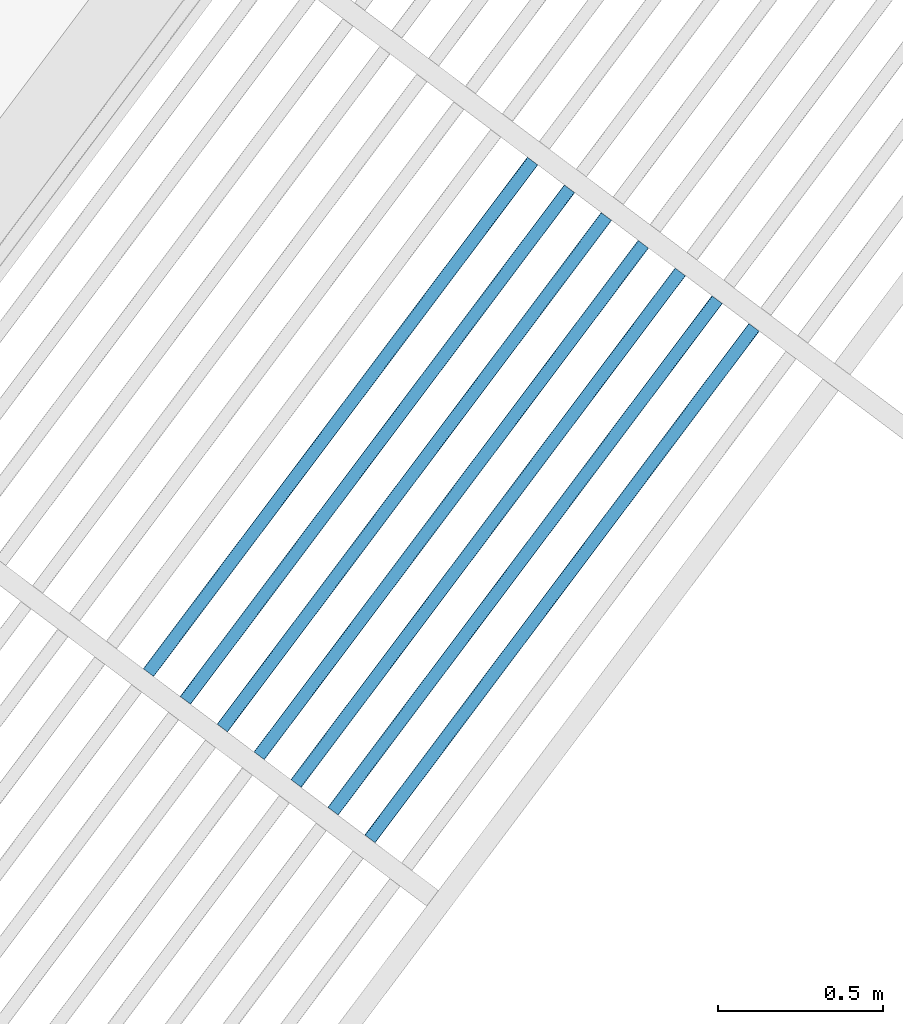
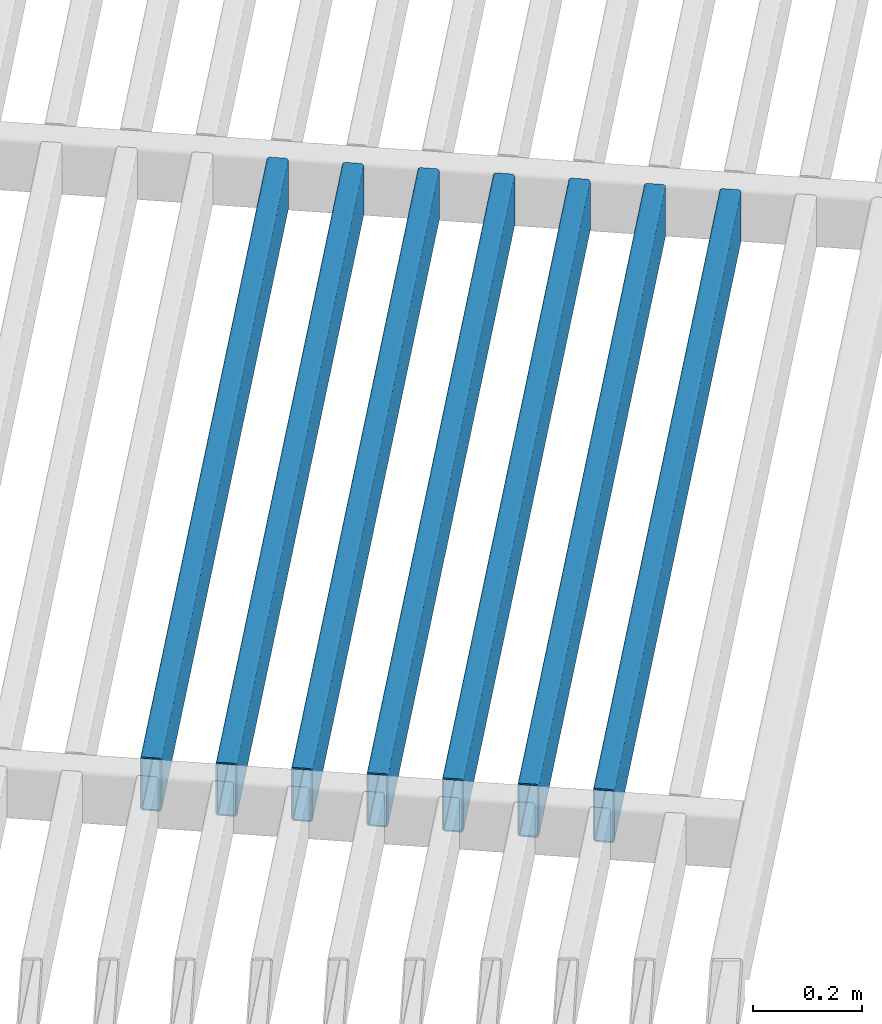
# One storey, part 85 of 95: 7 beams.
"""IFC2X3 building model written with IfcOpenShell, lengths in metres."""

from ifc_helpers import new_model, entity, si_unit, converted_unit, derived_unit, direction, frame, frame_2d, origin, place, context, subcontext, project, spatial, polyline, circle_curve, parameter, trimmed, segment, composite_curve, outline, extrude, material, type_object, element, save


model = new_model("IFC2X3")

# Units and contexts
model_context = context("Model", 3, precision=1e-05, world=origin(), true_north=direction((6.123031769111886e-17, 1.0)))
body_context = subcontext(model_context, "Body", "Model", "MODEL_VIEW")
ifc_project = project(units=[si_unit("LENGTHUNIT", "METRE"), si_unit("AREAUNIT", "SQUARE_METRE"), si_unit("VOLUMEUNIT", "CUBIC_METRE"), converted_unit("PLANEANGLEUNIT", "DEGREE", entity("IfcRatioMeasure", 0.017453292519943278), si_unit("PLANEANGLEUNIT", "RADIAN"), dimensions=[0, 0, 0, 0, 0, 0, 0]), si_unit("MASSUNIT", "GRAM", prefix="KILO"), derived_unit("MASSDENSITYUNIT", [(si_unit("MASSUNIT", "GRAM", prefix="KILO"), 1), (si_unit("LENGTHUNIT", "METRE"), -3)]), derived_unit("IONCONCENTRATIONUNIT", [(si_unit("MASSUNIT", "GRAM", prefix="KILO"), 1), (si_unit("LENGTHUNIT", "METRE"), -3)]), derived_unit("MOMENTOFINERTIAUNIT", [(si_unit("LENGTHUNIT", "METRE"), 4)]), si_unit("TIMEUNIT", "SECOND"), si_unit("FREQUENCYUNIT", "HERTZ"), si_unit("THERMODYNAMICTEMPERATUREUNIT", "DEGREE_CELSIUS"), derived_unit("THERMALTRANSMITTANCEUNIT", [(si_unit("MASSUNIT", "GRAM", prefix="KILO"), 1), (si_unit("THERMODYNAMICTEMPERATUREUNIT", "KELVIN"), -1), (si_unit("TIMEUNIT", "SECOND"), -3)]), derived_unit("THERMALCONDUCTANCEUNIT", [(si_unit("MASSUNIT", "GRAM", prefix="KILO"), 1), (si_unit("THERMODYNAMICTEMPERATUREUNIT", "KELVIN"), -1), (si_unit("TIMEUNIT", "SECOND"), -3), (si_unit("LENGTHUNIT", "METRE"), 1)]), derived_unit("VOLUMETRICFLOWRATEUNIT", [(si_unit("LENGTHUNIT", "METRE"), 3), (si_unit("TIMEUNIT", "SECOND"), -1)]), derived_unit("MASSFLOWRATEUNIT", [(si_unit("MASSUNIT", "GRAM", prefix="KILO"), 1), (si_unit("TIMEUNIT", "SECOND"), -1)]), derived_unit("ROTATIONALFREQUENCYUNIT", [(si_unit("TIMEUNIT", "SECOND"), -1)]), si_unit("ELECTRICCURRENTUNIT", "AMPERE"), si_unit("ELECTRICVOLTAGEUNIT", "VOLT"), si_unit("POWERUNIT", "WATT"), si_unit("FORCEUNIT", "NEWTON", prefix="KILO"), si_unit("ILLUMINANCEUNIT", "LUX"), si_unit("LUMINOUSFLUXUNIT", "LUMEN"), si_unit("LUMINOUSINTENSITYUNIT", "CANDELA"), derived_unit("USERDEFINED", [(si_unit("MASSUNIT", "GRAM", prefix="KILO"), -1), (si_unit("LENGTHUNIT", "METRE"), -2), (si_unit("TIMEUNIT", "SECOND"), 3), (si_unit("LUMINOUSFLUXUNIT", "LUMEN"), 1)]), derived_unit("USERDEFINED", [(si_unit("MASSUNIT", "GRAM", prefix="KILO"), 1), (si_unit("TIMEUNIT", "SECOND"), -3), (si_unit("LENGTHUNIT", "METRE"), 3), (si_unit("ELECTRICCURRENTUNIT", "AMPERE"), -2)]), derived_unit("SOUNDPOWERUNIT", [(si_unit("MASSUNIT", "GRAM", prefix="KILO"), 1), (si_unit("TIMEUNIT", "SECOND"), -3), (si_unit("LENGTHUNIT", "METRE"), 2)]), derived_unit("SOUNDPRESSUREUNIT", [(si_unit("MASSUNIT", "GRAM", prefix="KILO"), 1), (si_unit("LENGTHUNIT", "METRE"), -1), (si_unit("TIMEUNIT", "SECOND"), -2)]), derived_unit("LINEARVELOCITYUNIT", [(si_unit("LENGTHUNIT", "METRE"), 1), (si_unit("TIMEUNIT", "SECOND"), -1)]), si_unit("PRESSUREUNIT", "PASCAL"), derived_unit("USERDEFINED", [(si_unit("MASSUNIT", "GRAM", prefix="KILO"), 1), (si_unit("LENGTHUNIT", "METRE"), -2), (si_unit("TIMEUNIT", "SECOND"), -2)]), derived_unit("LINEARFORCEUNIT", [(si_unit("MASSUNIT", "GRAM", prefix="KILO"), 1), (si_unit("TIMEUNIT", "SECOND"), -2)]), derived_unit("PLANARFORCEUNIT", [(si_unit("MASSUNIT", "GRAM", prefix="KILO"), 1), (si_unit("LENGTHUNIT", "METRE"), -1), (si_unit("TIMEUNIT", "SECOND"), -2)]), derived_unit("SPECIFICHEATCAPACITYUNIT", [(si_unit("THERMODYNAMICTEMPERATUREUNIT", "KELVIN"), -1), (si_unit("LENGTHUNIT", "METRE"), 2), (si_unit("TIMEUNIT", "SECOND"), -2)]), derived_unit("HEATINGVALUEUNIT", [(si_unit("LENGTHUNIT", "METRE"), 2), (si_unit("TIMEUNIT", "SECOND"), -2)]), derived_unit("VAPORPERMEABILITYUNIT", [(si_unit("LENGTHUNIT", "METRE"), -1), (si_unit("TIMEUNIT", "SECOND"), 1)]), derived_unit("DYNAMICVISCOSITYUNIT", [(si_unit("MASSUNIT", "GRAM", prefix="KILO"), 1), (si_unit("TIMEUNIT", "SECOND"), -1), (si_unit("LENGTHUNIT", "METRE"), -1)]), derived_unit("THERMALEXPANSIONCOEFFICIENTUNIT", [(si_unit("THERMODYNAMICTEMPERATUREUNIT", "KELVIN"), -1)]), derived_unit("MODULUSOFELASTICITYUNIT", [(si_unit("MASSUNIT", "GRAM", prefix="KILO"), 1), (si_unit("LENGTHUNIT", "METRE"), -1), (si_unit("TIMEUNIT", "SECOND"), -2)]), derived_unit("ISOTHERMALMOISTURECAPACITYUNIT", [(si_unit("LENGTHUNIT", "METRE"), 3), (si_unit("MASSUNIT", "GRAM", prefix="KILO"), -1)]), derived_unit("MOISTUREDIFFUSIVITYUNIT", [(si_unit("TIMEUNIT", "SECOND"), -1), (si_unit("LENGTHUNIT", "METRE"), 2)])], contexts=[model_context])

# Site, building, storey
site_placement = place(None, origin())
site = spatial("IfcSite", under=ifc_project, at=site_placement, Name="Default", CompositionType="ELEMENT")
building_placement = place(site_placement, frame((0.0, 0.0, 235.0), z_axis=(0.0, 0.0, 1.0), x_axis=(-0.7996477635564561, 0.6004693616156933, 0.0)))
building = spatial("IfcBuilding", under=site, at=building_placement, CompositionType="ELEMENT")
storey_placement = place(building_placement, frame((0.0, 0.0, 3.400000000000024)))
storey = spatial("IfcBuildingStorey", under=building, at=storey_placement, Name="PC- Coberta STR", CompositionType="ELEMENT", Elevation=3.400000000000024)

# Beams
ifc_material = material(Name="_Acer- STR")
beam_type = type_object("IfcBeamType", Name="STR- V- Acer- RHS- Rectangular- T1:120x40RHS -", PredefinedType="NOTDEFINED")
beam_1_placement = place(storey_placement, frame((65.35355240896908, -32.38519175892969, 0.4984047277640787), z_axis=(0.0, 0.0, 1.0), x_axis=(0.0, -1.0, 0.0)))
element("IfcBeam", 1, at=beam_1_placement, inside=storey, type_object=beam_type, material=ifc_material, Name="STR- V- Acer- RHS- Rectangular- T1:120x40RHS -", ObjectType="STR- V- Acer- RHS- Rectangular- T1:120x40RHS -", context=body_context, shape_type="SweptSolid", body=[
    extrude(outline(composite_curve([segment(trimmed(circle_curve(frame_2d((-0.01400000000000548, -0.053999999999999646), x_axis=(1.0, 0.0)), 0.006), [parameter(180.0000000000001)], [parameter(269.99999999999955)], True, "PARAMETER"), True, "CONTINUOUS"), segment(polyline([(-0.01400000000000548, -0.0599999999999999), (0.013999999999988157, -0.0599999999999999)]), True, "CONTINUOUS"), segment(trimmed(circle_curve(frame_2d((0.013999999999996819, -0.053999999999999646), x_axis=(1.0, 0.0)), 0.006), [parameter(269.99999999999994)], [parameter(1.0177774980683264e-13)], True, "PARAMETER"), True, "CONTINUOUS"), segment(polyline([(0.019999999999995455, -0.053999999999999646), (0.019999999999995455, 0.05400000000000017)]), True, "CONTINUOUS"), segment(trimmed(circle_curve(frame_2d((0.013999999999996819, 0.05400000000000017), x_axis=(1.0, 0.0)), 0.006), [parameter(359.9999999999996)], [parameter(89.99999999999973)], True, "PARAMETER"), True, "CONTINUOUS"), segment(polyline([(0.013999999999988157, 0.059999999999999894), (-0.01400000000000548, 0.059999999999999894)]), True, "CONTINUOUS"), segment(trimmed(circle_curve(frame_2d((-0.01400000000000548, 0.05400000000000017), x_axis=(1.0, 0.0)), 0.006), [parameter(90.00000000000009)], [parameter(180.00000000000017)], True, "PARAMETER"), True, "CONTINUOUS"), segment(polyline([(-0.02000000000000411, 0.05400000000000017), (-0.02000000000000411, -0.05400000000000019)]), True, "CONTINUOUS")], self_intersect=False), holes=[composite_curve([segment(polyline([(0.013999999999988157, -0.05700000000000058), (-0.01400000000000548, -0.05700000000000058)]), True, "CONTINUOUS"), segment(trimmed(circle_curve(frame_2d((-0.01400000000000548, -0.05400000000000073), x_axis=(1.0, 0.0)), 0.003), [parameter(179.99999999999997)], [parameter(269.9999999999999)], True, "PARAMETER"), False, "CONTINUOUS"), segment(polyline([(-0.017000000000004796, -0.05400000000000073), (-0.017000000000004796, 0.05399999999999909)]), True, "CONTINUOUS"), segment(trimmed(circle_curve(frame_2d((-0.01400000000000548, 0.05399999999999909), x_axis=(1.0, 0.0)), 0.003), [parameter(90.00000000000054)], [parameter(180.0000000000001)], True, "PARAMETER"), False, "CONTINUOUS"), segment(polyline([(-0.01400000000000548, 0.056999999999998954), (0.013999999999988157, 0.056999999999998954)]), True, "CONTINUOUS"), segment(trimmed(circle_curve(frame_2d((0.013999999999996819, 0.05399999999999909), x_axis=(1.0, 0.0)), 0.003), [parameter(0.0)], [parameter(90.00000000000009)], True, "PARAMETER"), False, "CONTINUOUS"), segment(polyline([(0.016999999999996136, 0.05399999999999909), (0.016999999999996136, -0.05400000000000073)]), True, "CONTINUOUS"), segment(trimmed(circle_curve(frame_2d((0.013999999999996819, -0.05400000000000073), x_axis=(1.0, 0.0)), 0.003), [parameter(270.00000000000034)], [parameter(3.053332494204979e-13)], True, "PARAMETER"), False, "CONTINUOUS")], self_intersect=False)]), frame((-1.9399999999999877, 0.021595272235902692, 0.06159527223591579), z_axis=(1.0, 0.0, 0.0), x_axis=(0.0, -1.0, 0.0)), (0.0, 0.0, 1.0), 1.9399999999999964),
])
beam_2_placement = place(storey_placement, frame((65.2135524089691, -32.38519175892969, 0.4984047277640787), z_axis=(0.0, 0.0, 1.0), x_axis=(0.0, -1.0, 0.0)))
element("IfcBeam", 2, at=beam_2_placement, inside=storey, type_object=beam_type, material=ifc_material, Name="STR- V- Acer- RHS- Rectangular- T1:120x40RHS -", ObjectType="STR- V- Acer- RHS- Rectangular- T1:120x40RHS -", context=body_context, shape_type="SweptSolid", body=[
    extrude(outline(composite_curve([segment(trimmed(circle_curve(frame_2d((-0.01400000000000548, -0.053999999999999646), x_axis=(1.0, 0.0)), 0.006), [parameter(180.0000000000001)], [parameter(269.99999999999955)], True, "PARAMETER"), True, "CONTINUOUS"), segment(polyline([(-0.01400000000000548, -0.0599999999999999), (0.013999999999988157, -0.0599999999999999)]), True, "CONTINUOUS"), segment(trimmed(circle_curve(frame_2d((0.013999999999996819, -0.053999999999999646), x_axis=(1.0, 0.0)), 0.006), [parameter(269.99999999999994)], [parameter(1.0177774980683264e-13)], True, "PARAMETER"), True, "CONTINUOUS"), segment(polyline([(0.019999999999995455, -0.053999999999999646), (0.019999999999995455, 0.05400000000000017)]), True, "CONTINUOUS"), segment(trimmed(circle_curve(frame_2d((0.013999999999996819, 0.05400000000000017), x_axis=(1.0, 0.0)), 0.006), [parameter(359.9999999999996)], [parameter(89.99999999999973)], True, "PARAMETER"), True, "CONTINUOUS"), segment(polyline([(0.013999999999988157, 0.059999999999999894), (-0.01400000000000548, 0.059999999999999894)]), True, "CONTINUOUS"), segment(trimmed(circle_curve(frame_2d((-0.01400000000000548, 0.05400000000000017), x_axis=(1.0, 0.0)), 0.006), [parameter(90.00000000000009)], [parameter(180.00000000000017)], True, "PARAMETER"), True, "CONTINUOUS"), segment(polyline([(-0.02000000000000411, 0.05400000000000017), (-0.02000000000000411, -0.05400000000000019)]), True, "CONTINUOUS")], self_intersect=False), holes=[composite_curve([segment(polyline([(0.013999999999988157, -0.05700000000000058), (-0.01400000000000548, -0.05700000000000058)]), True, "CONTINUOUS"), segment(trimmed(circle_curve(frame_2d((-0.01400000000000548, -0.05400000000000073), x_axis=(1.0, 0.0)), 0.003), [parameter(179.99999999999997)], [parameter(269.9999999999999)], True, "PARAMETER"), False, "CONTINUOUS"), segment(polyline([(-0.017000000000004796, -0.05400000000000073), (-0.017000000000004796, 0.05399999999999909)]), True, "CONTINUOUS"), segment(trimmed(circle_curve(frame_2d((-0.01400000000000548, 0.05399999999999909), x_axis=(1.0, 0.0)), 0.003), [parameter(90.00000000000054)], [parameter(180.0000000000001)], True, "PARAMETER"), False, "CONTINUOUS"), segment(polyline([(-0.01400000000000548, 0.056999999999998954), (0.013999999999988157, 0.056999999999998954)]), True, "CONTINUOUS"), segment(trimmed(circle_curve(frame_2d((0.013999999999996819, 0.05399999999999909), x_axis=(1.0, 0.0)), 0.003), [parameter(0.0)], [parameter(90.00000000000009)], True, "PARAMETER"), False, "CONTINUOUS"), segment(polyline([(0.016999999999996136, 0.05399999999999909), (0.016999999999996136, -0.05400000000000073)]), True, "CONTINUOUS"), segment(trimmed(circle_curve(frame_2d((0.013999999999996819, -0.05400000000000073), x_axis=(1.0, 0.0)), 0.003), [parameter(270.00000000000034)], [parameter(3.053332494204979e-13)], True, "PARAMETER"), False, "CONTINUOUS")], self_intersect=False)]), frame((-1.9399999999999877, 0.021595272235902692, 0.06159527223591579), z_axis=(1.0, 0.0, 0.0), x_axis=(0.0, -1.0, 0.0)), (0.0, 0.0, 1.0), 1.9399999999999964),
])
beam_3_placement = place(storey_placement, frame((65.07355240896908, -32.38519175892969, 0.4984047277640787), z_axis=(0.0, 0.0, 1.0), x_axis=(0.0, -1.0, 0.0)))
element("IfcBeam", 3, at=beam_3_placement, inside=storey, type_object=beam_type, material=ifc_material, Name="STR- V- Acer- RHS- Rectangular- T1:120x40RHS -", ObjectType="STR- V- Acer- RHS- Rectangular- T1:120x40RHS -", context=body_context, shape_type="SweptSolid", body=[
    extrude(outline(composite_curve([segment(trimmed(circle_curve(frame_2d((-0.01399999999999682, -0.053999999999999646), x_axis=(1.0, 0.0)), 0.006), [parameter(180.0000000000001)], [parameter(269.99999999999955)], True, "PARAMETER"), True, "CONTINUOUS"), segment(polyline([(-0.01399999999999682, -0.0599999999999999), (0.013999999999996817, -0.0599999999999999)]), True, "CONTINUOUS"), segment(trimmed(circle_curve(frame_2d((0.014000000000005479, -0.053999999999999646), x_axis=(1.0, 0.0)), 0.006), [parameter(269.99999999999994)], [parameter(1.0177774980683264e-13)], True, "PARAMETER"), True, "CONTINUOUS"), segment(polyline([(0.020000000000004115, -0.053999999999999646), (0.020000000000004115, 0.05400000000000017)]), True, "CONTINUOUS"), segment(trimmed(circle_curve(frame_2d((0.014000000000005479, 0.05400000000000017), x_axis=(1.0, 0.0)), 0.006), [parameter(359.9999999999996)], [parameter(89.99999999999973)], True, "PARAMETER"), True, "CONTINUOUS"), segment(polyline([(0.013999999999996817, 0.059999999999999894), (-0.01399999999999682, 0.059999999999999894)]), True, "CONTINUOUS"), segment(trimmed(circle_curve(frame_2d((-0.01399999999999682, 0.05400000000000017), x_axis=(1.0, 0.0)), 0.006), [parameter(90.00000000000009)], [parameter(180.00000000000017)], True, "PARAMETER"), True, "CONTINUOUS"), segment(polyline([(-0.019999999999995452, 0.05400000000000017), (-0.019999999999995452, -0.05400000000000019)]), True, "CONTINUOUS")], self_intersect=False), holes=[composite_curve([segment(polyline([(0.013999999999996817, -0.05700000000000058), (-0.01399999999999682, -0.05700000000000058)]), True, "CONTINUOUS"), segment(trimmed(circle_curve(frame_2d((-0.01399999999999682, -0.05400000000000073), x_axis=(1.0, 0.0)), 0.003), [parameter(179.99999999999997)], [parameter(269.9999999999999)], True, "PARAMETER"), False, "CONTINUOUS"), segment(polyline([(-0.016999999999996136, -0.05400000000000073), (-0.016999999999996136, 0.05399999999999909)]), True, "CONTINUOUS"), segment(trimmed(circle_curve(frame_2d((-0.01399999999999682, 0.05399999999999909), x_axis=(1.0, 0.0)), 0.003), [parameter(90.00000000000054)], [parameter(180.0000000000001)], True, "PARAMETER"), False, "CONTINUOUS"), segment(polyline([(-0.01399999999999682, 0.056999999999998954), (0.013999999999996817, 0.056999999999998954)]), True, "CONTINUOUS"), segment(trimmed(circle_curve(frame_2d((0.014000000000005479, 0.05399999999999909), x_axis=(1.0, 0.0)), 0.003), [parameter(0.0)], [parameter(90.00000000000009)], True, "PARAMETER"), False, "CONTINUOUS"), segment(polyline([(0.017000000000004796, 0.05399999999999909), (0.017000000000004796, -0.05400000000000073)]), True, "CONTINUOUS"), segment(trimmed(circle_curve(frame_2d((0.014000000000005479, -0.05400000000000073), x_axis=(1.0, 0.0)), 0.003), [parameter(270.00000000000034)], [parameter(3.053332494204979e-13)], True, "PARAMETER"), False, "CONTINUOUS")], self_intersect=False)]), frame((-1.9399999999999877, 0.02159527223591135, 0.06159527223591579), z_axis=(1.0, 0.0, 0.0), x_axis=(0.0, -1.0, 0.0)), (0.0, 0.0, 1.0), 1.9399999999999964),
])
beam_4_placement = place(storey_placement, frame((64.93355240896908, -32.38519175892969, 0.4984047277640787), z_axis=(0.0, 0.0, 1.0), x_axis=(0.0, -1.0, 0.0)))
element("IfcBeam", 4, at=beam_4_placement, inside=storey, type_object=beam_type, material=ifc_material, Name="STR- V- Acer- RHS- Rectangular- T1:120x40RHS -", ObjectType="STR- V- Acer- RHS- Rectangular- T1:120x40RHS -", context=body_context, shape_type="SweptSolid", body=[
    extrude(outline(composite_curve([segment(trimmed(circle_curve(frame_2d((-0.013999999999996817, -0.053999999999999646), x_axis=(1.0, 0.0)), 0.006), [parameter(180.0000000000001)], [parameter(269.99999999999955)], True, "PARAMETER"), True, "CONTINUOUS"), segment(polyline([(-0.013999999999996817, -0.0599999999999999), (0.013999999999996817, -0.0599999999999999)]), True, "CONTINUOUS"), segment(trimmed(circle_curve(frame_2d((0.01400000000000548, -0.053999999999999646), x_axis=(1.0, 0.0)), 0.006), [parameter(269.99999999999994)], [parameter(1.0177774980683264e-13)], True, "PARAMETER"), True, "CONTINUOUS"), segment(polyline([(0.020000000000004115, -0.053999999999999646), (0.020000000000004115, 0.05400000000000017)]), True, "CONTINUOUS"), segment(trimmed(circle_curve(frame_2d((0.01400000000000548, 0.05400000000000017), x_axis=(1.0, 0.0)), 0.006), [parameter(359.9999999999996)], [parameter(89.99999999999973)], True, "PARAMETER"), True, "CONTINUOUS"), segment(polyline([(0.013999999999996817, 0.059999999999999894), (-0.013999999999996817, 0.059999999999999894)]), True, "CONTINUOUS"), segment(trimmed(circle_curve(frame_2d((-0.013999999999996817, 0.05400000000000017), x_axis=(1.0, 0.0)), 0.006), [parameter(90.00000000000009)], [parameter(180.00000000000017)], True, "PARAMETER"), True, "CONTINUOUS"), segment(polyline([(-0.019999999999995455, 0.05400000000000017), (-0.019999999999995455, -0.05400000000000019)]), True, "CONTINUOUS")], self_intersect=False), holes=[composite_curve([segment(polyline([(0.013999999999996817, -0.05700000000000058), (-0.013999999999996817, -0.05700000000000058)]), True, "CONTINUOUS"), segment(trimmed(circle_curve(frame_2d((-0.013999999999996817, -0.05400000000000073), x_axis=(1.0, 0.0)), 0.003), [parameter(179.99999999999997)], [parameter(269.9999999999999)], True, "PARAMETER"), False, "CONTINUOUS"), segment(polyline([(-0.01699999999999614, -0.05400000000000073), (-0.01699999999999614, 0.05399999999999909)]), True, "CONTINUOUS"), segment(trimmed(circle_curve(frame_2d((-0.013999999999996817, 0.05399999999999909), x_axis=(1.0, 0.0)), 0.003), [parameter(90.00000000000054)], [parameter(180.0000000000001)], True, "PARAMETER"), False, "CONTINUOUS"), segment(polyline([(-0.013999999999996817, 0.056999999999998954), (0.013999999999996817, 0.056999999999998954)]), True, "CONTINUOUS"), segment(trimmed(circle_curve(frame_2d((0.01400000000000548, 0.05399999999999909), x_axis=(1.0, 0.0)), 0.003), [parameter(0.0)], [parameter(90.00000000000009)], True, "PARAMETER"), False, "CONTINUOUS"), segment(polyline([(0.017000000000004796, 0.05399999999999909), (0.017000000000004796, -0.05400000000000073)]), True, "CONTINUOUS"), segment(trimmed(circle_curve(frame_2d((0.01400000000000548, -0.05400000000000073), x_axis=(1.0, 0.0)), 0.003), [parameter(270.00000000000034)], [parameter(3.053332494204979e-13)], True, "PARAMETER"), False, "CONTINUOUS")], self_intersect=False)]), frame((-1.9399999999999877, 0.021595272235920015, 0.06159527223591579), z_axis=(1.0, 0.0, 0.0), x_axis=(0.0, -1.0, 0.0)), (0.0, 0.0, 1.0), 1.9399999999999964),
])
beam_5_placement = place(storey_placement, frame((64.79355240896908, -32.38519175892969, 0.4984047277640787), z_axis=(0.0, 0.0, 1.0), x_axis=(0.0, -1.0, 0.0)))
element("IfcBeam", 5, at=beam_5_placement, inside=storey, type_object=beam_type, material=ifc_material, Name="STR- V- Acer- RHS- Rectangular- T1:120x40RHS -", ObjectType="STR- V- Acer- RHS- Rectangular- T1:120x40RHS -", context=body_context, shape_type="SweptSolid", body=[
    extrude(outline(composite_curve([segment(trimmed(circle_curve(frame_2d((-0.013999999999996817, -0.053999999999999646), x_axis=(1.0, 0.0)), 0.006), [parameter(180.0000000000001)], [parameter(269.99999999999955)], True, "PARAMETER"), True, "CONTINUOUS"), segment(polyline([(-0.013999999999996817, -0.0599999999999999), (0.013999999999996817, -0.0599999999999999)]), True, "CONTINUOUS"), segment(trimmed(circle_curve(frame_2d((0.01400000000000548, -0.053999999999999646), x_axis=(1.0, 0.0)), 0.006), [parameter(269.99999999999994)], [parameter(1.0177774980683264e-13)], True, "PARAMETER"), True, "CONTINUOUS"), segment(polyline([(0.020000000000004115, -0.053999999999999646), (0.020000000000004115, 0.05400000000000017)]), True, "CONTINUOUS"), segment(trimmed(circle_curve(frame_2d((0.01400000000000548, 0.05400000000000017), x_axis=(1.0, 0.0)), 0.006), [parameter(359.9999999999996)], [parameter(89.99999999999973)], True, "PARAMETER"), True, "CONTINUOUS"), segment(polyline([(0.013999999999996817, 0.059999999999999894), (-0.013999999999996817, 0.059999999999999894)]), True, "CONTINUOUS"), segment(trimmed(circle_curve(frame_2d((-0.013999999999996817, 0.05400000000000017), x_axis=(1.0, 0.0)), 0.006), [parameter(90.00000000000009)], [parameter(180.00000000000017)], True, "PARAMETER"), True, "CONTINUOUS"), segment(polyline([(-0.019999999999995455, 0.05400000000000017), (-0.019999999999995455, -0.05400000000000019)]), True, "CONTINUOUS")], self_intersect=False), holes=[composite_curve([segment(polyline([(0.013999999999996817, -0.05700000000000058), (-0.013999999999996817, -0.05700000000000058)]), True, "CONTINUOUS"), segment(trimmed(circle_curve(frame_2d((-0.013999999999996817, -0.05400000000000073), x_axis=(1.0, 0.0)), 0.003), [parameter(179.99999999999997)], [parameter(269.9999999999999)], True, "PARAMETER"), False, "CONTINUOUS"), segment(polyline([(-0.01699999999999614, -0.05400000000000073), (-0.01699999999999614, 0.05399999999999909)]), True, "CONTINUOUS"), segment(trimmed(circle_curve(frame_2d((-0.013999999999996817, 0.05399999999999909), x_axis=(1.0, 0.0)), 0.003), [parameter(90.00000000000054)], [parameter(180.0000000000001)], True, "PARAMETER"), False, "CONTINUOUS"), segment(polyline([(-0.013999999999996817, 0.056999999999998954), (0.013999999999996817, 0.056999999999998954)]), True, "CONTINUOUS"), segment(trimmed(circle_curve(frame_2d((0.01400000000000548, 0.05399999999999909), x_axis=(1.0, 0.0)), 0.003), [parameter(0.0)], [parameter(90.00000000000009)], True, "PARAMETER"), False, "CONTINUOUS"), segment(polyline([(0.017000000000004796, 0.05399999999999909), (0.017000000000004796, -0.05400000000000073)]), True, "CONTINUOUS"), segment(trimmed(circle_curve(frame_2d((0.01400000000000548, -0.05400000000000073), x_axis=(1.0, 0.0)), 0.003), [parameter(270.00000000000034)], [parameter(3.053332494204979e-13)], True, "PARAMETER"), False, "CONTINUOUS")], self_intersect=False)]), frame((-1.9399999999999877, 0.021595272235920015, 0.06159527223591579), z_axis=(1.0, 0.0, 0.0), x_axis=(0.0, -1.0, 0.0)), (0.0, 0.0, 1.0), 1.9399999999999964),
])
beam_6_placement = place(storey_placement, frame((64.65355240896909, -32.38519175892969, 0.4984047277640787), z_axis=(0.0, 0.0, 1.0), x_axis=(0.0, -1.0, 0.0)))
element("IfcBeam", 6, at=beam_6_placement, inside=storey, type_object=beam_type, material=ifc_material, Name="STR- V- Acer- RHS- Rectangular- T1:120x40RHS -", ObjectType="STR- V- Acer- RHS- Rectangular- T1:120x40RHS -", context=body_context, shape_type="SweptSolid", body=[
    extrude(outline(composite_curve([segment(trimmed(circle_curve(frame_2d((-0.013999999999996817, -0.053999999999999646), x_axis=(1.0, 0.0)), 0.006), [parameter(180.0000000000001)], [parameter(269.99999999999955)], True, "PARAMETER"), True, "CONTINUOUS"), segment(polyline([(-0.013999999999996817, -0.0599999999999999), (0.013999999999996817, -0.0599999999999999)]), True, "CONTINUOUS"), segment(trimmed(circle_curve(frame_2d((0.01400000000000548, -0.053999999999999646), x_axis=(1.0, 0.0)), 0.006), [parameter(269.99999999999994)], [parameter(1.0177774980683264e-13)], True, "PARAMETER"), True, "CONTINUOUS"), segment(polyline([(0.020000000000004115, -0.053999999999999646), (0.020000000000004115, 0.05400000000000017)]), True, "CONTINUOUS"), segment(trimmed(circle_curve(frame_2d((0.01400000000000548, 0.05400000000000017), x_axis=(1.0, 0.0)), 0.006), [parameter(359.9999999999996)], [parameter(89.99999999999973)], True, "PARAMETER"), True, "CONTINUOUS"), segment(polyline([(0.013999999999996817, 0.059999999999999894), (-0.013999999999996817, 0.059999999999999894)]), True, "CONTINUOUS"), segment(trimmed(circle_curve(frame_2d((-0.013999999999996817, 0.05400000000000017), x_axis=(1.0, 0.0)), 0.006), [parameter(90.00000000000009)], [parameter(180.00000000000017)], True, "PARAMETER"), True, "CONTINUOUS"), segment(polyline([(-0.019999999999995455, 0.05400000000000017), (-0.019999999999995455, -0.05400000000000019)]), True, "CONTINUOUS")], self_intersect=False), holes=[composite_curve([segment(polyline([(0.013999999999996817, -0.05700000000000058), (-0.013999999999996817, -0.05700000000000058)]), True, "CONTINUOUS"), segment(trimmed(circle_curve(frame_2d((-0.013999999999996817, -0.05400000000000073), x_axis=(1.0, 0.0)), 0.003), [parameter(179.99999999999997)], [parameter(269.9999999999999)], True, "PARAMETER"), False, "CONTINUOUS"), segment(polyline([(-0.01699999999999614, -0.05400000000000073), (-0.01699999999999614, 0.05399999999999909)]), True, "CONTINUOUS"), segment(trimmed(circle_curve(frame_2d((-0.013999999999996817, 0.05399999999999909), x_axis=(1.0, 0.0)), 0.003), [parameter(90.00000000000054)], [parameter(180.0000000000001)], True, "PARAMETER"), False, "CONTINUOUS"), segment(polyline([(-0.013999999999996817, 0.056999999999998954), (0.013999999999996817, 0.056999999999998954)]), True, "CONTINUOUS"), segment(trimmed(circle_curve(frame_2d((0.01400000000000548, 0.05399999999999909), x_axis=(1.0, 0.0)), 0.003), [parameter(0.0)], [parameter(90.00000000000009)], True, "PARAMETER"), False, "CONTINUOUS"), segment(polyline([(0.017000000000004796, 0.05399999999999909), (0.017000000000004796, -0.05400000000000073)]), True, "CONTINUOUS"), segment(trimmed(circle_curve(frame_2d((0.01400000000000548, -0.05400000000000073), x_axis=(1.0, 0.0)), 0.003), [parameter(270.00000000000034)], [parameter(3.053332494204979e-13)], True, "PARAMETER"), False, "CONTINUOUS")], self_intersect=False)]), frame((-1.9399999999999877, 0.021595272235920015, 0.06159527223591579), z_axis=(1.0, 0.0, 0.0), x_axis=(0.0, -1.0, 0.0)), (0.0, 0.0, 1.0), 1.9399999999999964),
])
beam_7_placement = place(storey_placement, frame((64.51355240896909, -32.38519175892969, 0.4984047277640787), z_axis=(0.0, 0.0, 1.0), x_axis=(0.0, -1.0, 0.0)))
element("IfcBeam", 7, at=beam_7_placement, inside=storey, type_object=beam_type, material=ifc_material, Name="STR- V- Acer- RHS- Rectangular- T1:120x40RHS -", ObjectType="STR- V- Acer- RHS- Rectangular- T1:120x40RHS -", context=body_context, shape_type="SweptSolid", body=[
    extrude(outline(composite_curve([segment(trimmed(circle_curve(frame_2d((-0.01400000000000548, -0.053999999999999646), x_axis=(1.0, 0.0)), 0.006), [parameter(180.0000000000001)], [parameter(269.99999999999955)], True, "PARAMETER"), True, "CONTINUOUS"), segment(polyline([(-0.01400000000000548, -0.0599999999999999), (0.013999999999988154, -0.0599999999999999)]), True, "CONTINUOUS"), segment(trimmed(circle_curve(frame_2d((0.013999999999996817, -0.053999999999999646), x_axis=(1.0, 0.0)), 0.006), [parameter(269.99999999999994)], [parameter(1.0177774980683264e-13)], True, "PARAMETER"), True, "CONTINUOUS"), segment(polyline([(0.019999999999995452, -0.053999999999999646), (0.019999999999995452, 0.05400000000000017)]), True, "CONTINUOUS"), segment(trimmed(circle_curve(frame_2d((0.013999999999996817, 0.05400000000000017), x_axis=(1.0, 0.0)), 0.006), [parameter(359.9999999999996)], [parameter(89.99999999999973)], True, "PARAMETER"), True, "CONTINUOUS"), segment(polyline([(0.013999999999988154, 0.059999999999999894), (-0.01400000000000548, 0.059999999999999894)]), True, "CONTINUOUS"), segment(trimmed(circle_curve(frame_2d((-0.01400000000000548, 0.05400000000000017), x_axis=(1.0, 0.0)), 0.006), [parameter(90.00000000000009)], [parameter(180.00000000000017)], True, "PARAMETER"), True, "CONTINUOUS"), segment(polyline([(-0.02000000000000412, 0.05400000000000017), (-0.02000000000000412, -0.05400000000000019)]), True, "CONTINUOUS")], self_intersect=False), holes=[composite_curve([segment(polyline([(0.013999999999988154, -0.05700000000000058), (-0.01400000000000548, -0.05700000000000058)]), True, "CONTINUOUS"), segment(trimmed(circle_curve(frame_2d((-0.01400000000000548, -0.05400000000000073), x_axis=(1.0, 0.0)), 0.003), [parameter(179.99999999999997)], [parameter(269.9999999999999)], True, "PARAMETER"), False, "CONTINUOUS"), segment(polyline([(-0.017000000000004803, -0.05400000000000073), (-0.017000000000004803, 0.05399999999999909)]), True, "CONTINUOUS"), segment(trimmed(circle_curve(frame_2d((-0.01400000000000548, 0.05399999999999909), x_axis=(1.0, 0.0)), 0.003), [parameter(90.00000000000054)], [parameter(180.0000000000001)], True, "PARAMETER"), False, "CONTINUOUS"), segment(polyline([(-0.01400000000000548, 0.056999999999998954), (0.013999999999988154, 0.056999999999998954)]), True, "CONTINUOUS"), segment(trimmed(circle_curve(frame_2d((0.013999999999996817, 0.05399999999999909), x_axis=(1.0, 0.0)), 0.003), [parameter(0.0)], [parameter(90.00000000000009)], True, "PARAMETER"), False, "CONTINUOUS"), segment(polyline([(0.016999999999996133, 0.05399999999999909), (0.016999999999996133, -0.05400000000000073)]), True, "CONTINUOUS"), segment(trimmed(circle_curve(frame_2d((0.013999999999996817, -0.05400000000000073), x_axis=(1.0, 0.0)), 0.003), [parameter(270.00000000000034)], [parameter(3.053332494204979e-13)], True, "PARAMETER"), False, "CONTINUOUS")], self_intersect=False)]), frame((-1.9399999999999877, 0.02159527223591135, 0.06159527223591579), z_axis=(1.0, 0.0, 0.0), x_axis=(0.0, -1.0, 0.0)), (0.0, 0.0, 1.0), 1.9399999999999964),
])

save(model, "model.ifc")
